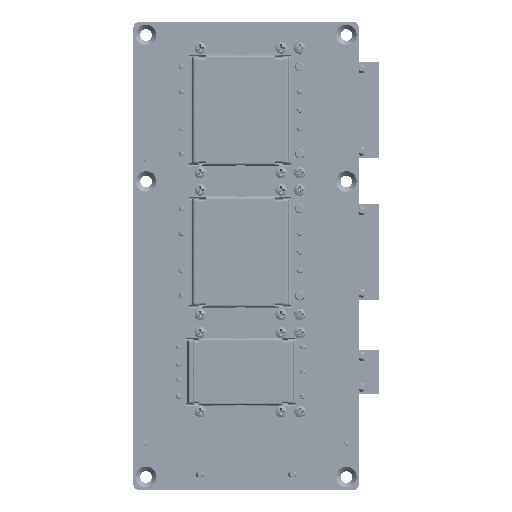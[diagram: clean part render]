
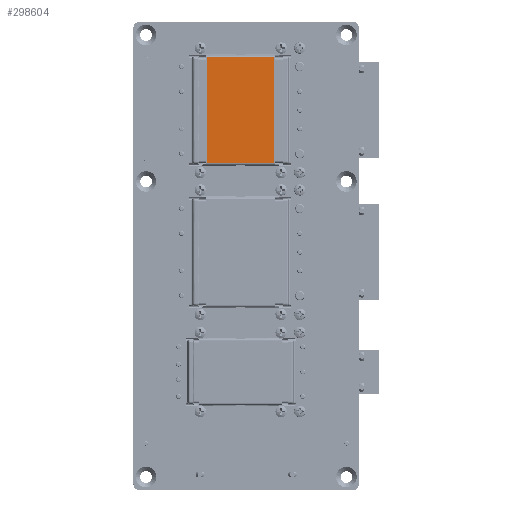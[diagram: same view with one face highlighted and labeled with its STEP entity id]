
A CAD part, top view. The second image highlights one B-rep face of the part: STEP entity #298604.
In plain terms, the highlighted planar face has unit normal (0, 0, 1).
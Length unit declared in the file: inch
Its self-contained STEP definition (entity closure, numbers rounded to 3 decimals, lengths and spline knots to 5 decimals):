
#28212 = EDGE_CURVE ( 'NONE', #303374, #303371, #116085, .T. ) ;
#28213 = EDGE_CURVE ( 'NONE', #303371, #303373, #116086, .T. ) ;
#28215 = EDGE_CURVE ( 'NONE', #303375, #303374, #116088, .T. ) ;
#28216 = EDGE_CURVE ( 'NONE', #303373, #303375, #116089, .T. ) ;
#31678 = ORIENTED_EDGE ( 'NONE', *, *, #28213, .F. ) ;
#31686 = ORIENTED_EDGE ( 'NONE', *, *, #28215, .F. ) ;
#31688 = ORIENTED_EDGE ( 'NONE', *, *, #28212, .F. ) ;
#31691 = ORIENTED_EDGE ( 'NONE', *, *, #28216, .F. ) ;
#88658 = VECTOR ( 'NONE', #122976, 39.37008 ) ;
#89143 = VECTOR ( 'NONE', #122968, 39.37008 ) ;
#89744 = VECTOR ( 'NONE', #122939, 39.37008 ) ;
#90717 = VECTOR ( 'NONE', #122947, 39.37008 ) ;
#116085 = LINE ( 'NONE', #122935, #89744 ) ;
#116086 = LINE ( 'NONE', #122944, #90717 ) ;
#116088 = LINE ( 'NONE', #122964, #89143 ) ;
#116089 = LINE ( 'NONE', #122974, #88658 ) ;
#122935 = CARTESIAN_POINT ( 'NONE',  ( -1.36375, 1.4965, 0.7224 ) ) ;
#122939 = DIRECTION ( 'NONE',  ( 0., -1., 0. ) ) ;
#122944 = CARTESIAN_POINT ( 'NONE',  ( -2.45201, 1.49526, 0.7224 ) ) ;
#122947 = DIRECTION ( 'NONE',  ( -1., 0., 0. ) ) ;
#122964 = CARTESIAN_POINT ( 'NONE',  ( -1.34871, 3.20036, 0.7224 ) ) ;
#122968 = DIRECTION ( 'NONE',  ( 1., 0., 0. ) ) ;
#122974 = CARTESIAN_POINT ( 'NONE',  ( -2.43696, 3.19911, 0.7224 ) ) ;
#122976 = DIRECTION ( 'NONE',  ( 0., 1., 0. ) ) ;
#130799 = AXIS2_PLACEMENT_3D ( 'NONE', #163133, #163136, #163139 ) ;
#163130 = PLANE ( 'NONE',  #130799 ) ;
#163133 = CARTESIAN_POINT ( 'NONE',  ( -2.40427, 1.56622, 0.7224 ) ) ;
#163136 = DIRECTION ( 'NONE',  ( 0., 0., 1. ) ) ;
#163139 = DIRECTION ( 'NONE',  ( 1., 0., 0. ) ) ;
#165679 = FACE_OUTER_BOUND ( 'NONE', #326895, .T. ) ;
#225831 = CARTESIAN_POINT ( 'NONE',  ( -1.36375, 1.49526, 0.7224 ) ) ;
#225832 = CARTESIAN_POINT ( 'NONE',  ( -2.43696, 1.49526, 0.7224 ) ) ;
#225834 = CARTESIAN_POINT ( 'NONE',  ( -1.36375, 3.20036, 0.7224 ) ) ;
#225836 = CARTESIAN_POINT ( 'NONE',  ( -2.43696, 3.20036, 0.7224 ) ) ;
#298604 = ADVANCED_FACE ( 'NONE', ( #165679 ), #163130, .T. ) ;
#303371 = VERTEX_POINT ( 'NONE', #225831 ) ;
#303373 = VERTEX_POINT ( 'NONE', #225832 ) ;
#303374 = VERTEX_POINT ( 'NONE', #225834 ) ;
#303375 = VERTEX_POINT ( 'NONE', #225836 ) ;
#326895 = EDGE_LOOP ( 'NONE', ( #31678, #31688, #31686, #31691 ) ) ;
